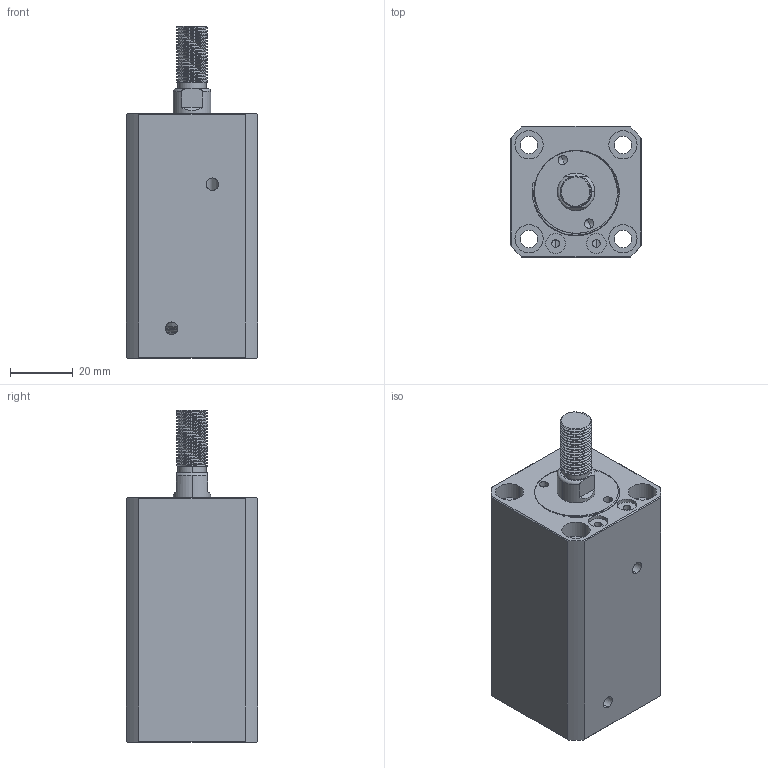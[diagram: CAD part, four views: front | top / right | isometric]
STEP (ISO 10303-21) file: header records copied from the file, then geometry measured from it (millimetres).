
FILE_DESCRIPTION (( 'STEP AP214' ), '1' );
FILE_NAME ('chtb-sdma20x35w_asm.STEP', '2018-05-18T04:17:01', ( 'Windows' ), ( 'Microsoft' ), 'SwSTEP 2.0', 'SolidWorks 2015', '' );
FILE_SCHEMA (( 'AUTOMOTIVE_DESIGN' ));
Length unit declared in the file: millimetre
Products named in the file (4): QG_3; CHTB-SDMA20X35WHSG; CHTB-SDMA20X35NBT; chtb-sdma20x35w_asm
Assembly tree (3 placements, depth 2):
  chtb-sdma20x35w_asm
    CHTB-SDMA20X35NBT
    CHTB-SDMA20X35WHSG
    QG_3
Bounding box: 42 x 42 x 106 mm (x, y, z)
Volume: 119013.5 mm3; surface area: 36973 mm2
Topology: 3 solids, 3 shells, 247 faces, 671 edges, 446 vertices
Faces by surface type: cylinder 144, plane 48, torus 25, bspline 23, cone 7
Entity records: 14895 total; most frequent: CARTESIAN_POINT 9018, ORIENTED_EDGE 1334, DIRECTION 1075, EDGE_CURVE 667, VERTEX_POINT 446, AXIS2_PLACEMENT_3D 441, EDGE_LOOP 285, ADVANCED_FACE 247
